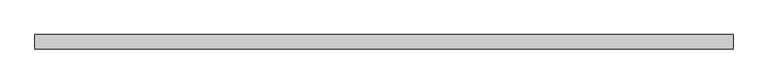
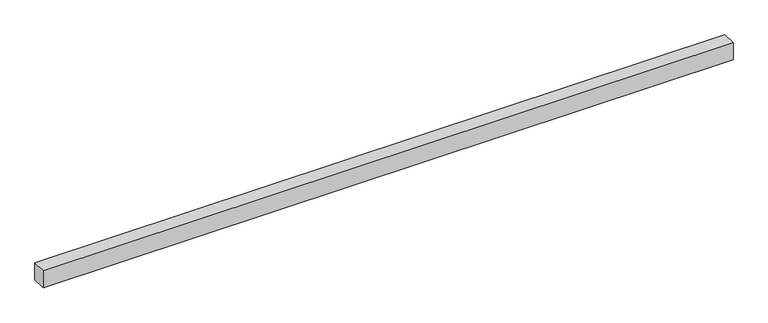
"""IFC4 building model written with IfcOpenShell, lengths in millimetres: light fixture geometry, GENILED_Светильник светодиодный_Line Advanced : Line Advanced 1962x40x50 40Вт Опал."""

from ifc_helpers import new_model, si_unit, origin, origin_with_axes, place, context, project, spatial, polyline, outline, extrude, faceted_brep, source, transform, mapped, element, save


def light_fixture_121728c5(model_context):
    return source(origin(), model_context, "Body", "SolidModel", [
        faceted_brep([(981.0, 20.0, 50.0), (-981.0, 20.0, 50.0), (-981.0, -20.0, 50.0), (981.0, -20.0, 50.0), (979.0, 18.0, 5.0), (979.0, -18.0, 5.0), (-979.0, -18.0, 5.0), (-979.0, 18.0, 5.0), (981.0, 20.0, 0.0), (981.0, -20.0, 0.0), (-981.0, -20.0, 0.0), (-981.0, 20.0, 0.0), (979.0, 18.0, 0.0), (-979.0, 18.0, 0.0), (-979.0, -18.0, 0.0), (979.0, -18.0, 0.0)], [[[0, 1, 2, 3]], [[4, 5, 6, 7]], [[8, 9, 10, 11], [12, 13, 14, 15]], [[1, 0, 8, 11]], [[2, 1, 11, 10]], [[3, 2, 10, 9]], [[0, 3, 9, 8]], [[12, 15, 5, 4]], [[15, 14, 6, 5]], [[14, 13, 7, 6]], [[13, 12, 4, 7]]]),
        extrude(outline(polyline([(979.0, 18.0), (979.0, -18.0), (-979.0, -18.0), (-979.0, 18.0), (979.0, 18.0)])), origin_with_axes(), (0.0, 0.0, 1.0), 5.0),
    ])


if __name__ == "__main__":
    model = new_model("IFC4")
    model_context = context("Model", 3, world=origin())
    ifc_project = project(units=[si_unit("LENGTHUNIT", "METRE", prefix="MILLI")], contexts=[model_context])
    site = spatial("IfcSite", under=ifc_project)
    building = spatial("IfcBuilding", under=site)
    placement = place(None, origin())
    light_fixture_shape = light_fixture_121728c5(model_context)
    element("IfcLightFixture", 1, ObjectType="GENILED_Светильник светодиодный_Line Advanced : Line Advanced 1962x40x50 40Вт Опал", at=placement, inside=building, context=model_context, shape_type="MappedRepresentation", body=[
        mapped(light_fixture_shape, transform((0.0, 0.0, 0.0), x_axis=(1.0, 0.0, 0.0), y_axis=(0.0, 1.0, 0.0), z_axis=(0.0, 0.0, 1.0))),
    ])
    save(model, "model.ifc")
